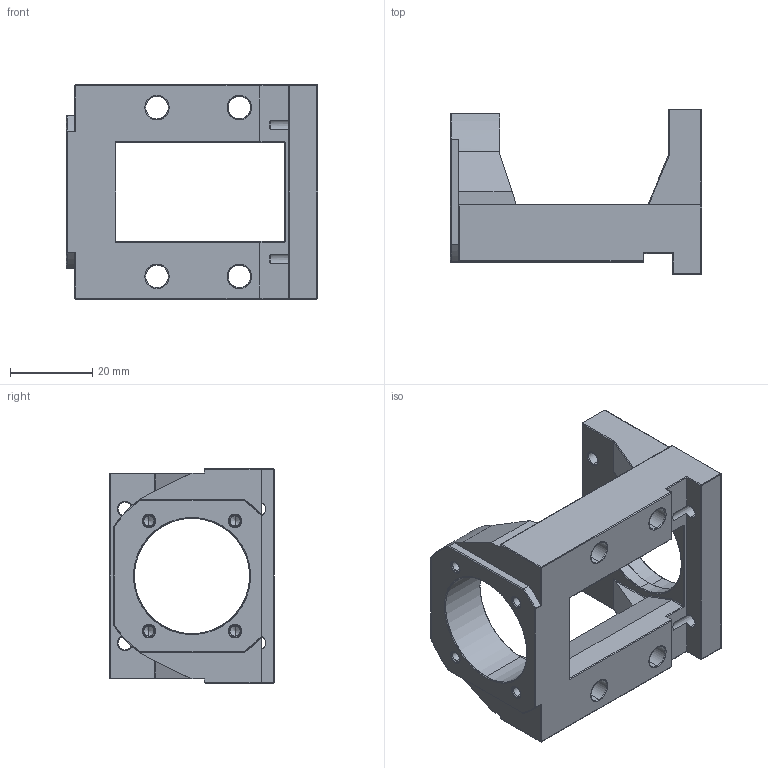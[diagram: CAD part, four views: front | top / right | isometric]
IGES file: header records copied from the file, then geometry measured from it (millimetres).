
Start section: SolidWorks IGES file using analytic representation for surfaces
Bounding box: 61 x 40 x 52 mm (x, y, z)
Surface area: 15075.9 mm2 (no closed solid volume)
Topology: 0 solids, 0 shells, 227 faces, 2494 edges, 2476 vertices
Faces by surface type: revolution 142, bspline 85
